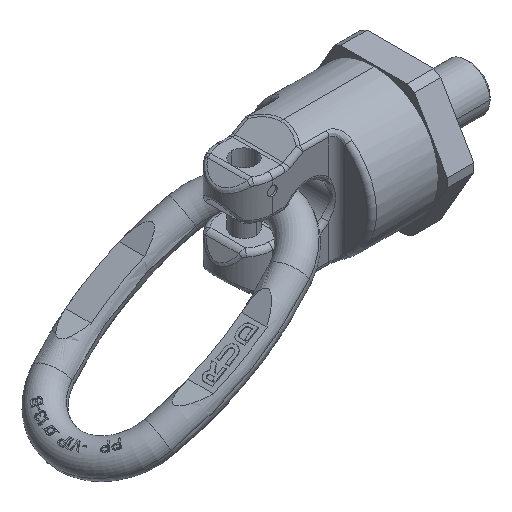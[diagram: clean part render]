
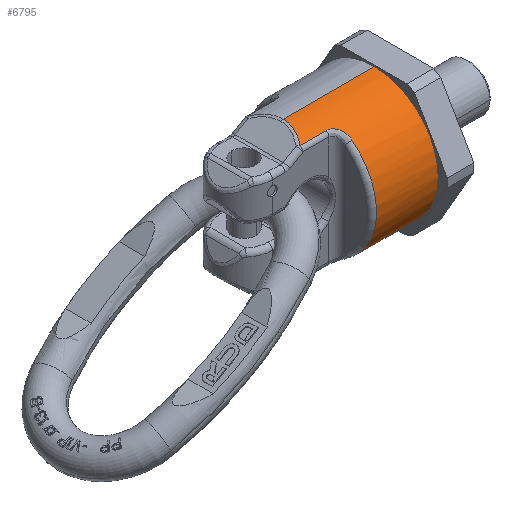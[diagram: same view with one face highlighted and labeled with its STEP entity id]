
A CAD part, isometric view. The second image highlights one B-rep face of the part: STEP entity #6795.
In plain terms, the highlighted cylindrical face has radius 41.25 mm (diameter 82.5 mm), a partial arc.
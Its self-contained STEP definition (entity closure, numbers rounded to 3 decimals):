
#6=CARTESIAN_POINT('',(105.5,0.,0.));
#7=DIRECTION('',(1.,0.,0.));
#8=DIRECTION('',(0.,0.,1.));
#9=AXIS2_PLACEMENT_3D('',#6,#7,#8);
#81=DIRECTION('',(1.,0.,0.));
#82=VECTOR('',#81,61.696);
#83=CARTESIAN_POINT('',(43.804,0.,
-41.25));
#84=LINE('',#83,#82);
#1639=CARTESIAN_POINT('',(55.,-16.716,37.711));
#1640=CARTESIAN_POINT('',(55.264,-16.716,37.711));
#1641=CARTESIAN_POINT('',(55.776,-16.744,37.699));
#1642=CARTESIAN_POINT('',(56.497,-16.857,37.649));
#1643=CARTESIAN_POINT('',(57.179,-17.031,37.57));
#1644=CARTESIAN_POINT('',(57.827,-17.261,37.465));
#1645=CARTESIAN_POINT('',(58.444,-17.545,37.333));
#1646=CARTESIAN_POINT('',(59.035,-17.882,37.173));
#1647=CARTESIAN_POINT('',(59.587,-18.264,36.987));
#1648=CARTESIAN_POINT('',(60.089,-18.675,36.782));
#1649=CARTESIAN_POINT('',(60.558,-19.125,36.55));
#1650=CARTESIAN_POINT('',(61.009,-19.633,36.28));
#1651=CARTESIAN_POINT('',(61.432,-20.195,35.971));
#1652=CARTESIAN_POINT('',(61.818,-20.809,35.619));
#1653=CARTESIAN_POINT('',(62.152,-21.454,35.234));
#1654=CARTESIAN_POINT('',(62.424,-22.104,34.83));
#1655=CARTESIAN_POINT('',(62.64,-22.756,34.409));
#1656=CARTESIAN_POINT('',(62.804,-23.406,33.969));
#1657=CARTESIAN_POINT('',(62.918,-24.055,33.513));
#1658=CARTESIAN_POINT('',(62.985,-24.701,33.04));
#1659=CARTESIAN_POINT('',(63.,-25.13,32.713));
#1660=CARTESIAN_POINT('',(63.,-25.343,32.547));
#1662=DIRECTION('',(1.,0.,0.));
#1663=VECTOR('',#1662,16.879);
#1664=CARTESIAN_POINT('',(38.121,-16.716,37.711));
#1665=LINE('',#1664,#1663);
#1666=CARTESIAN_POINT('',(43.804,0.,
41.25));
#1667=CARTESIAN_POINT('',(43.804,-0.774,
41.25));
#1668=CARTESIAN_POINT('',(43.733,-2.322,41.206));
#1669=CARTESIAN_POINT('',(43.426,-4.595,41.015));
#1670=CARTESIAN_POINT('',(42.9,-6.931,40.687));
#1671=CARTESIAN_POINT('',(42.123,-9.35,40.203));
#1672=CARTESIAN_POINT('',(41.036,-11.904,39.526));
#1673=CARTESIAN_POINT('',(39.632,-14.485,38.653));
#1674=CARTESIAN_POINT('',(38.637,-15.991,38.033));
#1675=CARTESIAN_POINT('',(38.121,-16.716,37.711));
#1677=DIRECTION('',(1.,0.,0.));
#1678=VECTOR('',#1677,61.696);
#1679=CARTESIAN_POINT('',(43.804,0.,
41.25));
#1680=LINE('',#1679,#1678);
#1681=CARTESIAN_POINT('',(38.121,-16.716,
-37.711));
#1682=CARTESIAN_POINT('',(38.683,-15.926,
-38.061));
#1683=CARTESIAN_POINT('',(39.72,-14.337,
-38.707));
#1684=CARTESIAN_POINT('',(41.038,-11.885,
-39.528));
#1685=CARTESIAN_POINT('',(42.05,-9.529,
-40.158));
#1686=CARTESIAN_POINT('',(42.818,-7.216,
-40.636));
#1687=CARTESIAN_POINT('',(43.366,-4.928,
-40.977));
#1688=CARTESIAN_POINT('',(43.721,-2.509,
-41.198));
#1689=CARTESIAN_POINT('',(43.804,-0.846,
-41.25));
#1690=CARTESIAN_POINT('',(43.804,0.,
-41.25));
#1692=DIRECTION('',(-1.,0.,0.));
#1693=VECTOR('',#1692,16.879);
#1694=CARTESIAN_POINT('',(55.,-16.716,
-37.711));
#1695=LINE('',#1694,#1693);
#1696=CARTESIAN_POINT('',(63.,-25.343,-32.547));
#1697=CARTESIAN_POINT('',(63.,-25.131,
-32.712));
#1698=CARTESIAN_POINT('',(62.985,-24.704,
-33.038));
#1699=CARTESIAN_POINT('',(62.919,-24.059,
-33.511));
#1700=CARTESIAN_POINT('',(62.805,-23.41,
-33.967));
#1701=CARTESIAN_POINT('',(62.642,-22.761,
-34.405));
#1702=CARTESIAN_POINT('',(62.427,-22.111,
-34.826));
#1703=CARTESIAN_POINT('',(62.156,-21.463,
-35.229));
#1704=CARTESIAN_POINT('',(61.825,-20.821,
-35.612));
#1705=CARTESIAN_POINT('',(61.44,-20.207,
-35.964));
#1706=CARTESIAN_POINT('',(61.014,-19.639,
-36.277));
#1707=CARTESIAN_POINT('',(60.557,-19.124,
-36.551));
#1708=CARTESIAN_POINT('',(60.081,-18.668,
-36.785));
#1709=CARTESIAN_POINT('',(59.576,-18.255,
-36.992));
#1710=CARTESIAN_POINT('',(59.023,-17.875,
-37.177));
#1711=CARTESIAN_POINT('',(58.436,-17.541,
-37.335));
#1712=CARTESIAN_POINT('',(57.82,-17.259,
-37.466));
#1713=CARTESIAN_POINT('',(57.174,-17.029,
-37.571));
#1714=CARTESIAN_POINT('',(56.493,-16.856,
-37.649));
#1715=CARTESIAN_POINT('',(55.773,-16.744,
-37.699));
#1716=CARTESIAN_POINT('',(55.263,-16.716,
-37.711));
#1717=CARTESIAN_POINT('',(55.,-16.716,
-37.711));
#1719=CARTESIAN_POINT('',(63.,0.,0.));
#1720=DIRECTION('',(1.,0.,0.));
#1721=DIRECTION('',(0.,-0.614,0.789));
#1722=AXIS2_PLACEMENT_3D('',#1719,#1720,#1721);
#4271=CARTESIAN_POINT('',(105.5,0.,-41.25));
#4272=CARTESIAN_POINT('',(105.5,0.,41.25));
#4273=VERTEX_POINT('',#4271);
#4274=VERTEX_POINT('',#4272);
#4275=CARTESIAN_POINT('',(43.804,0.,
-41.25));
#4276=VERTEX_POINT('',#4275);
#4277=CARTESIAN_POINT('',(43.804,0.,
41.25));
#4278=VERTEX_POINT('',#4277);
#4285=VERTEX_POINT('',#1639);
#4286=VERTEX_POINT('',#1660);
#4287=CARTESIAN_POINT('',(38.121,-16.716,37.711));
#4288=VERTEX_POINT('',#4287);
#4311=VERTEX_POINT('',#1696);
#4312=VERTEX_POINT('',#1717);
#4317=CARTESIAN_POINT('',(38.121,-16.716,
-37.711));
#4318=VERTEX_POINT('',#4317);
#6772=CARTESIAN_POINT('',(0.,0.,0.));
#6773=DIRECTION('',(1.,0.,0.));
#6774=DIRECTION('',(0.,0.,-1.));
#6775=AXIS2_PLACEMENT_3D('',#6772,#6773,#6774);
#6776=CYLINDRICAL_SURFACE('',#6775,41.25);
#6778=ORIENTED_EDGE('',*,*,#6777,.F.);
#6780=ORIENTED_EDGE('',*,*,#6779,.F.);
#6781=ORIENTED_EDGE('',*,*,#6646,.F.);
#6782=ORIENTED_EDGE('',*,*,#5087,.T.);
#6783=ORIENTED_EDGE('',*,*,#5062,.T.);
#6784=ORIENTED_EDGE('',*,*,#5084,.F.);
#6786=ORIENTED_EDGE('',*,*,#6785,.F.);
#6788=ORIENTED_EDGE('',*,*,#6787,.F.);
#6790=ORIENTED_EDGE('',*,*,#6789,.F.);
#6792=ORIENTED_EDGE('',*,*,#6791,.F.);
#6793=EDGE_LOOP('',(#6778,#6780,#6781,#6782,#6783,#6784,#6786,#6788,#6790,
#6792));
#6794=FACE_OUTER_BOUND('',#6793,.F.);
#6795=ADVANCED_FACE('',(#6794),#6776,.T.);
#10=CIRCLE('',#9,41.25);
#1661=B_SPLINE_CURVE_WITH_KNOTS('',3,(#1639,#1640,#1641,#1642,#1643,#1644,#1645,
#1646,#1647,#1648,#1649,#1650,#1651,#1652,#1653,#1654,#1655,#1656,#1657,#1658,
#1659,#1660),.UNSPECIFIED.,.F.,.F.,(4,1,1,1,1,1,1,1,1,1,1,1,1,1,1,1,1,1,1,4),(
0.,0.053,0.105,0.158,0.211,
0.263,0.316,0.368,0.421,
0.474,0.526,0.579,0.632,
0.684,0.737,0.789,0.842,
0.895,0.947,1.),.UNSPECIFIED.);
#1676=B_SPLINE_CURVE_WITH_KNOTS('',3,(#1666,#1667,#1668,#1669,#1670,#1671,#1672,
#1673,#1674,#1675),.UNSPECIFIED.,.F.,.F.,(4,1,1,1,1,1,1,4),(0.,
0.143,0.286,0.429,0.571,
0.714,0.857,1.),.UNSPECIFIED.);
#1691=B_SPLINE_CURVE_WITH_KNOTS('',3,(#1681,#1682,#1683,#1684,#1685,#1686,#1687,
#1688,#1689,#1690),.UNSPECIFIED.,.F.,.F.,(4,1,1,1,1,1,1,4),(0.,
0.143,0.286,0.429,0.571,
0.714,0.857,1.),.UNSPECIFIED.);
#1718=B_SPLINE_CURVE_WITH_KNOTS('',3,(#1696,#1697,#1698,#1699,#1700,#1701,#1702,
#1703,#1704,#1705,#1706,#1707,#1708,#1709,#1710,#1711,#1712,#1713,#1714,#1715,
#1716,#1717),.UNSPECIFIED.,.F.,.F.,(4,1,1,1,1,1,1,1,1,1,1,1,1,1,1,1,1,1,1,4),(
0.,0.053,0.105,0.158,0.211,
0.263,0.316,0.368,0.421,
0.474,0.526,0.579,0.632,
0.684,0.737,0.789,0.842,
0.895,0.947,1.),.UNSPECIFIED.);
#1723=CIRCLE('',#1722,41.25);
#5062=EDGE_CURVE('',#4274,#4273,#10,.T.);
#5084=EDGE_CURVE('',#4276,#4273,#84,.T.);
#5087=EDGE_CURVE('',#4278,#4274,#1680,.T.);
#6646=EDGE_CURVE('',#4278,#4288,#1676,.T.);
#6777=EDGE_CURVE('',#4285,#4286,#1661,.T.);
#6779=EDGE_CURVE('',#4288,#4285,#1665,.T.);
#6785=EDGE_CURVE('',#4318,#4276,#1691,.T.);
#6787=EDGE_CURVE('',#4312,#4318,#1695,.T.);
#6789=EDGE_CURVE('',#4311,#4312,#1718,.T.);
#6791=EDGE_CURVE('',#4286,#4311,#1723,.T.);
